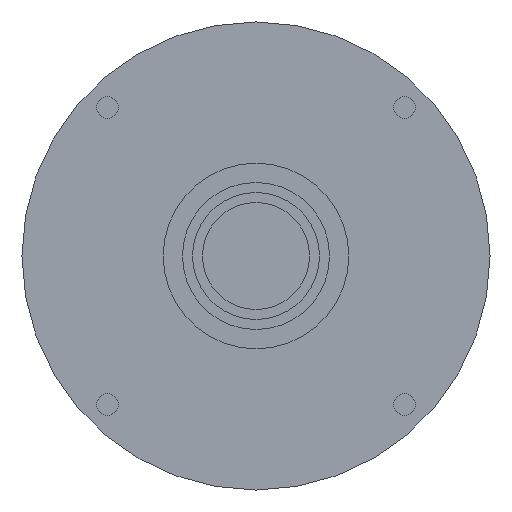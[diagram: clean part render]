
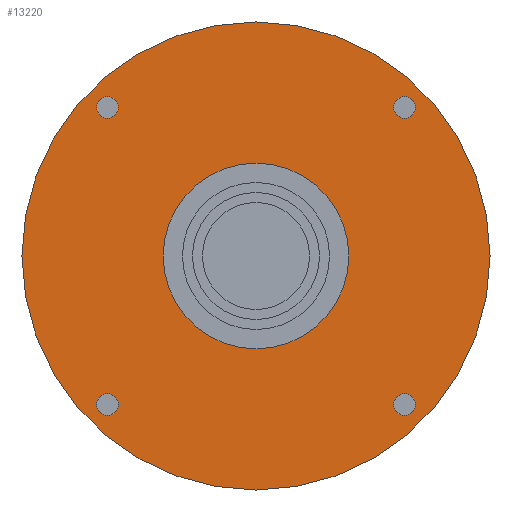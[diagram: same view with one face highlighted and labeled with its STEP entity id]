
A CAD part, left-side view. The second image highlights one B-rep face of the part: STEP entity #13220.
In plain terms, the highlighted planar face has unit normal (-1, 0, 0) as drawn and (0, 0, -1) by its records, which use the part's own axes.
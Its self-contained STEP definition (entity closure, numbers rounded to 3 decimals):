
#12100=CARTESIAN_POINT('',(44.449,41.199,-84.701));
#12110=VERTEX_POINT('',#12100);
#12140=CARTESIAN_POINT('',(44.449,44.449,-84.701));
#12150=DIRECTION('',(0.,0.,-1.));
#12160=DIRECTION('',(0.,1.,0.));
#12170=AXIS2_PLACEMENT_3D('',#12140,#12150,#12160);
#12180=CIRCLE('',#12170,3.25);
#12190=CARTESIAN_POINT('',(44.449,47.699,-84.701));
#12200=VERTEX_POINT('',#12190);
#12210=EDGE_CURVE('',#12200,#12110,#12180,.T.);
#12330=CARTESIAN_POINT('',(0.,0.,
-84.701));
#12340=DIRECTION('',(0.,0.,-1.));
#12350=DIRECTION('',(1.,0.,0.));
#12360=AXIS2_PLACEMENT_3D('',#12330,#12340,#12350);
#12370=PLANE('',#12360);
#12380=ORIENTED_EDGE('',*,*,#12210,.F.);
#12390=EDGE_CURVE('',#12110,#12200,#12180,.T.);
#12400=ORIENTED_EDGE('',*,*,#12390,.F.);
#12410=EDGE_LOOP('',(#12400,#12380));
#12420=FACE_BOUND('',#12410,.T.);
#12430=CARTESIAN_POINT('',(-44.449,44.449,-84.701));
#12440=DIRECTION('',(0.,0.,-1.));
#12450=DIRECTION('',(-1.,0.,0.));
#12460=AXIS2_PLACEMENT_3D('',#12430,#12440,#12450);
#12470=CIRCLE('',#12460,3.25);
#12480=CARTESIAN_POINT('',(-47.699,44.449,-84.701));
#12490=VERTEX_POINT('',#12480);
#12500=CARTESIAN_POINT('',(-41.199,44.449,-84.701));
#12510=VERTEX_POINT('',#12500);
#12520=EDGE_CURVE('',#12490,#12510,#12470,.T.);
#12530=ORIENTED_EDGE('',*,*,#12520,.F.);
#12540=EDGE_CURVE('',#12510,#12490,#12470,.T.);
#12550=ORIENTED_EDGE('',*,*,#12540,.F.);
#12560=EDGE_LOOP('',(#12550,#12530));
#12570=FACE_BOUND('',#12560,.T.);
#12580=CARTESIAN_POINT('',(-44.449,-44.449,-84.701))
;
#12590=DIRECTION('',(0.,0.,-1.));
#12600=DIRECTION('',(0.,-1.,0.));
#12610=AXIS2_PLACEMENT_3D('',#12580,#12590,#12600);
#12620=CIRCLE('',#12610,3.25);
#12630=CARTESIAN_POINT('',(-44.449,-47.699,-84.701))
;
#12640=VERTEX_POINT('',#12630);
#12650=CARTESIAN_POINT('',(-44.449,-41.199,-84.701))
;
#12660=VERTEX_POINT('',#12650);
#12670=EDGE_CURVE('',#12640,#12660,#12620,.T.);
#12680=ORIENTED_EDGE('',*,*,#12670,.F.);
#12690=EDGE_CURVE('',#12660,#12640,#12620,.T.);
#12700=ORIENTED_EDGE('',*,*,#12690,.F.);
#12710=EDGE_LOOP('',(#12700,#12680));
#12720=FACE_BOUND('',#12710,.T.);
#12730=CARTESIAN_POINT('',(0.,0.,
-84.701));
#12740=DIRECTION('',(0.,0.,-1.));
#12750=DIRECTION('',(0.,1.,0.));
#12760=AXIS2_PLACEMENT_3D('',#12730,#12740,#12750);
#12770=CIRCLE('',#12760,27.76);
#12780=CARTESIAN_POINT('',(0.,27.76,-84.701));
#12790=VERTEX_POINT('',#12780);
#12800=CARTESIAN_POINT('',(0.,-27.76,-84.701));
#12810=VERTEX_POINT('',#12800);
#12820=EDGE_CURVE('',#12790,#12810,#12770,.T.);
#12830=ORIENTED_EDGE('',*,*,#12820,.F.);
#12840=EDGE_CURVE('',#12810,#12790,#12770,.T.);
#12850=ORIENTED_EDGE('',*,*,#12840,.F.);
#12860=EDGE_LOOP('',(#12850,#12830));
#12870=FACE_BOUND('',#12860,.T.);
#12880=CARTESIAN_POINT('',(44.449,-44.449,-84.701));
#12890=DIRECTION('',(0.,0.,-1.));
#12900=DIRECTION('',(1.,0.,0.));
#12910=AXIS2_PLACEMENT_3D('',#12880,#12890,#12900);
#12920=CIRCLE('',#12910,3.25);
#12930=CARTESIAN_POINT('',(47.699,-44.449,-84.701));
#12940=VERTEX_POINT('',#12930);
#12950=CARTESIAN_POINT('',(41.199,-44.449,-84.701));
#12960=VERTEX_POINT('',#12950);
#12970=EDGE_CURVE('',#12940,#12960,#12920,.T.);
#12980=ORIENTED_EDGE('',*,*,#12970,.F.);
#12990=EDGE_CURVE('',#12960,#12940,#12920,.T.);
#13000=ORIENTED_EDGE('',*,*,#12990,.F.);
#13010=EDGE_LOOP('',(#13000,#12980));
#13020=FACE_BOUND('',#13010,.T.);
#13030=CARTESIAN_POINT('',(0.,0.,
-84.701));
#13040=DIRECTION('',(0.,0.,-1.));
#13050=DIRECTION('',(0.,-1.,0.));
#13060=AXIS2_PLACEMENT_3D('',#13030,#13040,#13050);
#13070=CIRCLE('',#13060,70.);
#13080=CARTESIAN_POINT('',(-70.,0.,-84.701));
#13090=VERTEX_POINT('',#13080);
#13100=CARTESIAN_POINT('',(70.,0.,-84.701));
#13110=VERTEX_POINT('',#13100);
#13120=EDGE_CURVE('',#13090,#13110,#13070,.T.);
#13130=ORIENTED_EDGE('',*,*,#13120,.T.);
#13140=CARTESIAN_POINT('',(0.,-70.,-84.701));
#13150=VERTEX_POINT('',#13140);
#13160=EDGE_CURVE('',#13150,#13090,#13070,.T.);
#13170=ORIENTED_EDGE('',*,*,#13160,.T.);
#13180=EDGE_CURVE('',#13110,#13150,#13070,.T.);
#13190=ORIENTED_EDGE('',*,*,#13180,.T.);
#13200=EDGE_LOOP('',(#13190,#13170,#13130));
#13210=FACE_OUTER_BOUND('',#13200,.T.);
#13220=ADVANCED_FACE('',(#12420,#12570,#12720,#12870,#13020,#13210),
#12370,.T.);
